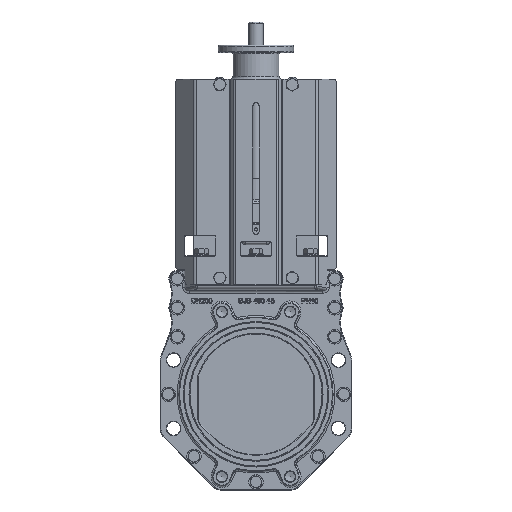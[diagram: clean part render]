
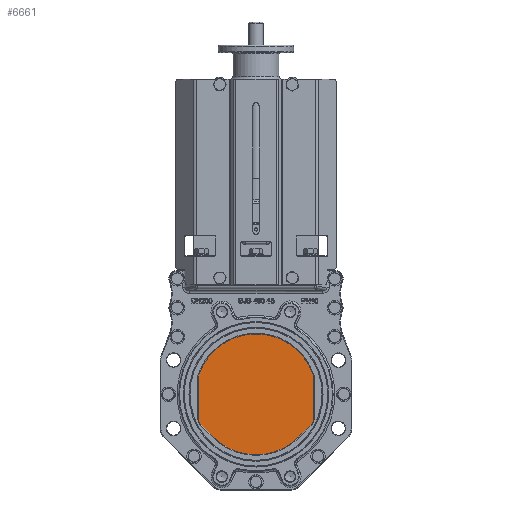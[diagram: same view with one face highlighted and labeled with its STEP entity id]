
A CAD part, top view. The second image highlights one B-rep face of the part: STEP entity #6661.
In plain terms, the highlighted planar face has unit normal (0, 0, 1).
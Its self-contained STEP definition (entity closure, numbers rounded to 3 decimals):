
#4609=FACE_OUTER_BOUND('',#16517,.T.);
#6661=ADVANCED_FACE('',(#4609),#8559,.T.);
#8559=PLANE('',#41762);
#9859=LINE('',#57516,#12259);
#9862=LINE('',#57526,#12262);
#9868=LINE('',#57550,#12268);
#9872=LINE('',#57562,#12272);
#12259=VECTOR('',#45822,1.);
#12262=VECTOR('',#45833,1.);
#12268=VECTOR('',#45859,1.);
#12272=VECTOR('',#45871,1.);
#16517=EDGE_LOOP('',(#23192,#23193,#23194,#23195,#23196,#23197,#23198,#23199,
#23200,#23201));
#23192=ORIENTED_EDGE('',*,*,#34607,.F.);
#23193=ORIENTED_EDGE('',*,*,#34633,.F.);
#23194=ORIENTED_EDGE('',*,*,#34630,.F.);
#23195=ORIENTED_EDGE('',*,*,#34627,.F.);
#23196=ORIENTED_EDGE('',*,*,#34624,.F.);
#23197=ORIENTED_EDGE('',*,*,#34621,.F.);
#23198=ORIENTED_EDGE('',*,*,#34618,.F.);
#23199=ORIENTED_EDGE('',*,*,#34615,.F.);
#23200=ORIENTED_EDGE('',*,*,#34612,.F.);
#23201=ORIENTED_EDGE('',*,*,#34609,.F.);
#30753=VERTEX_POINT('',#57515);
#30754=VERTEX_POINT('',#57517);
#30755=VERTEX_POINT('',#57521);
#30757=VERTEX_POINT('',#57527);
#30759=VERTEX_POINT('',#57533);
#30761=VERTEX_POINT('',#57539);
#30763=VERTEX_POINT('',#57545);
#30765=VERTEX_POINT('',#57551);
#30767=VERTEX_POINT('',#57557);
#30769=VERTEX_POINT('',#57563);
#34607=EDGE_CURVE('',#30753,#30754,#9859,.T.);
#34609=EDGE_CURVE('',#30754,#30755,#39313,.T.);
#34612=EDGE_CURVE('',#30755,#30757,#9862,.T.);
#34615=EDGE_CURVE('',#30757,#30759,#39315,.T.);
#34618=EDGE_CURVE('',#30759,#30761,#39317,.T.);
#34621=EDGE_CURVE('',#30761,#30763,#39319,.T.);
#34624=EDGE_CURVE('',#30763,#30765,#9868,.T.);
#34627=EDGE_CURVE('',#30765,#30767,#39321,.T.);
#34630=EDGE_CURVE('',#30767,#30769,#9872,.T.);
#34633=EDGE_CURVE('',#30769,#30753,#39323,.T.);
#39313=CIRCLE('',#41051,10.);
#39315=CIRCLE('',#41055,10.);
#39317=CIRCLE('',#41058,100.);
#39319=CIRCLE('',#41061,10.);
#39321=CIRCLE('',#41065,10.);
#39323=CIRCLE('',#41069,100.);
#41051=AXIS2_PLACEMENT_3D('',#57520,#45826,#45827);
#41055=AXIS2_PLACEMENT_3D('',#57532,#45838,#45839);
#41058=AXIS2_PLACEMENT_3D('',#57538,#45845,#45846);
#41061=AXIS2_PLACEMENT_3D('',#57544,#45852,#45853);
#41065=AXIS2_PLACEMENT_3D('',#57556,#45864,#45865);
#41069=AXIS2_PLACEMENT_3D('',#57567,#45876,#45877);
#41762=AXIS2_PLACEMENT_3D('',#63474,#48002,#48003);
#45822=DIRECTION('',(-0.707,0.707,0.));
#45826=DIRECTION('',(0.,0.,-1.));
#45827=DIRECTION('',(1.,0.,0.));
#45833=DIRECTION('',(0.,1.,0.));
#45838=DIRECTION('',(0.,0.,-1.));
#45839=DIRECTION('',(1.,0.,0.));
#45845=DIRECTION('',(0.,0.,-1.));
#45846=DIRECTION('',(1.,0.,0.));
#45852=DIRECTION('',(0.,0.,-1.));
#45853=DIRECTION('',(1.,0.,0.));
#45859=DIRECTION('',(0.,-1.,0.));
#45864=DIRECTION('',(0.,0.,-1.));
#45865=DIRECTION('',(1.,0.,0.));
#45871=DIRECTION('',(-0.707,-0.707,0.));
#45876=DIRECTION('',(0.,0.,-1.));
#45877=DIRECTION('',(1.,0.,0.));
#48002=DIRECTION('',(0.,0.,1.));
#48003=DIRECTION('',(1.,0.,0.));
#57515=CARTESIAN_POINT('',(-71.976,-69.434,4.));
#57516=CARTESIAN_POINT('',(-95.,-46.41,4.));
#57517=CARTESIAN_POINT('',(-92.071,-49.339,4.));
#57520=CARTESIAN_POINT('',(-85.,-42.268,4.));
#57521=CARTESIAN_POINT('',(-95.,-42.268,4.));
#57526=CARTESIAN_POINT('',(-95.,31.225,4.));
#57527=CARTESIAN_POINT('',(-95.,29.58,4.));
#57532=CARTESIAN_POINT('',(-85.,29.58,4.));
#57533=CARTESIAN_POINT('',(-94.444,32.867,4.));
#57538=CARTESIAN_POINT('',(0.,0.,4.));
#57539=CARTESIAN_POINT('',(94.444,32.867,4.));
#57544=CARTESIAN_POINT('',(85.,29.58,4.));
#57545=CARTESIAN_POINT('',(95.,29.58,4.));
#57550=CARTESIAN_POINT('',(95.,-46.41,4.));
#57551=CARTESIAN_POINT('',(95.,-42.268,4.));
#57556=CARTESIAN_POINT('',(85.,-42.268,4.));
#57557=CARTESIAN_POINT('',(92.071,-49.339,4.));
#57562=CARTESIAN_POINT('',(70.699,-70.711,4.));
#57563=CARTESIAN_POINT('',(70.699,-70.711,4.));
#57567=CARTESIAN_POINT('',(-0.011,0.,4.));
#63474=CARTESIAN_POINT('',(0.,109.489,4.));
